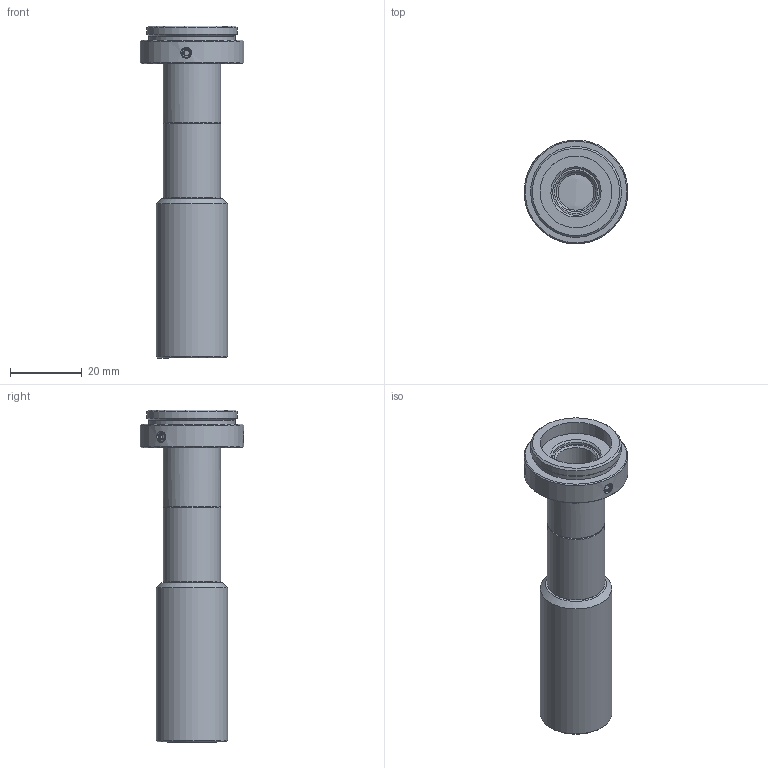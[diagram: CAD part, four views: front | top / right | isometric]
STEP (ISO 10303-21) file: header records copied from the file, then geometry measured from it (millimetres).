
FILE_DESCRIPTION(('STEP AP214'),'1');
FILE_NAME('RTK-08-124.stp','2026-03-16T09:53:25',(' '),(' '),'Spatial InterOp 3D',' ',' ');
FILE_SCHEMA(('AUTOMOTIVE_DESIGN { 1 0 10303 214 1 1 1 1 }'));
Length unit declared in the file: metre
Products named in the file (2): RTK-08-124; Component1
Assembly tree (1 placements, depth 2):
  RTK-08-124
    Component1
Bounding box: 28.94 x 28.97 x 92.61 mm (x, y, z)
Volume: 13275.7 mm3; surface area: 11880.7 mm2
Topology: 1 solids, 1 shells, 123 faces, 280 edges, 183 vertices
Faces by surface type: plane 50, cone 42, cylinder 26, bspline 3, sphere 2
Full cylindrical faces by diameter (mm): 2.5 x3, 10 x1, 11 x1, 12.7 x1, 13 x2, 13.4 x1, 13.5 x1, 14 x1, 14.2 x1, 15 x1, 15.5 x1, 16 x2, 16.5 x1, 17.4 x1, 18.2 x1, 20 x2, 24.12 x1, 25.32 x1, 29 x1
Entity records: 5429 total; most frequent: CARTESIAN_POINT 854, DIRECTION 520, ORIENTED_EDGE 424, STYLED_ITEM 336, PRESENTATION_STYLE_ASSIGNMENT 336, COLOUR_RGB 336, AXIS2_PLACEMENT_3D 216, EDGE_CURVE 212
